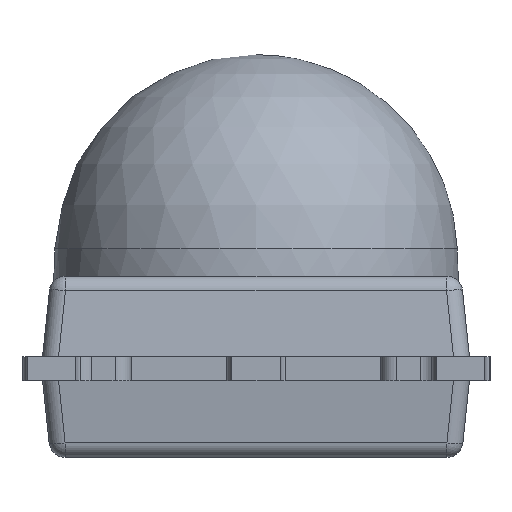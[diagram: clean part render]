
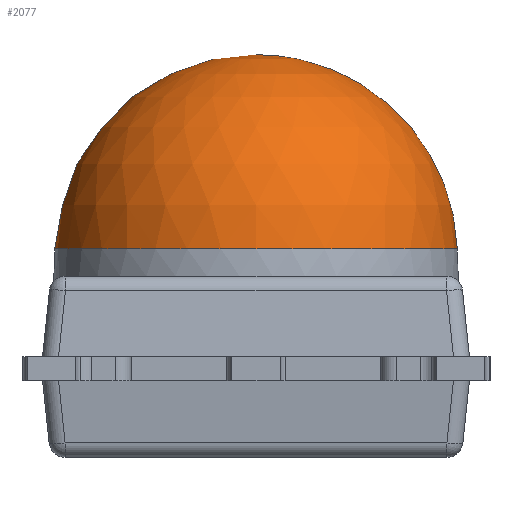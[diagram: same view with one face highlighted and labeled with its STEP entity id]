
A CAD part, front view. The second image highlights one B-rep face of the part: STEP entity #2077.
In plain terms, the highlighted spherical face has radius 2.5 mm.
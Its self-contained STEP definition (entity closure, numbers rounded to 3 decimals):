
#44=SPHERICAL_SURFACE('',#2244,2.5);
#173=FACE_OUTER_BOUND('',#292,.T.);
#292=EDGE_LOOP('',(#1549));
#782=CIRCLE('',#2243,2.498);
#899=VERTEX_POINT('',#3243);
#1133=EDGE_CURVE('',#899,#899,#782,.T.);
#1549=ORIENTED_EDGE('',*,*,#1133,.T.);
#2077=ADVANCED_FACE('',(#173),#44,.T.);
#2243=AXIS2_PLACEMENT_3D('',#3244,#2634,#2635);
#2244=AXIS2_PLACEMENT_3D('',#3245,#2636,#2637);
#2634=DIRECTION('center_axis',(0.,0.,1.));
#2635=DIRECTION('ref_axis',(1.,0.,0.));
#2636=DIRECTION('center_axis',(0.,0.,1.));
#2637=DIRECTION('ref_axis',(1.,0.,0.));
#3243=CARTESIAN_POINT('',(2.498,0.,1.337));
#3244=CARTESIAN_POINT('Origin',(0.,0.,1.337));
#3245=CARTESIAN_POINT('Origin',(0.,0.,1.25));
